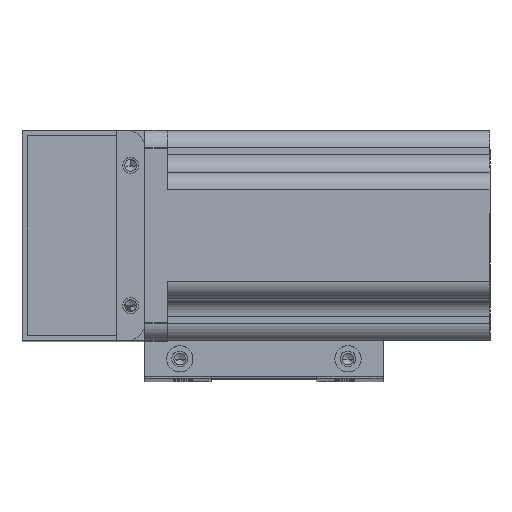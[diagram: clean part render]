
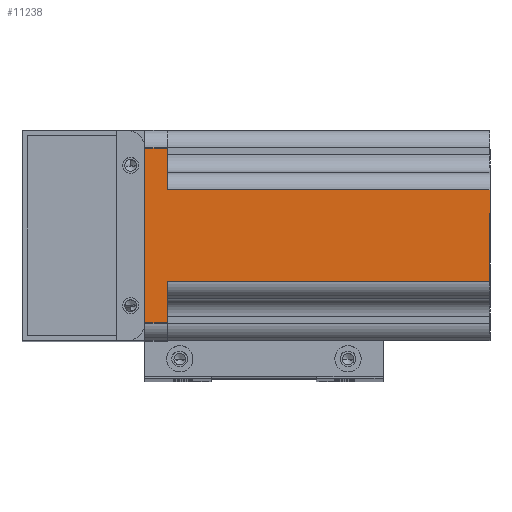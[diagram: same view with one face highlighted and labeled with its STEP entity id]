
A CAD part, top view. The second image highlights one B-rep face of the part: STEP entity #11238.
In plain terms, the highlighted planar face has unit normal (0, 0, 1) as drawn and (-1, 0, 0) by its records, which use the part's own axes.
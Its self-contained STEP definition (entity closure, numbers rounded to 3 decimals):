
#423 = CARTESIAN_POINT ( 'NONE',  ( -30., -13., 0. ) ) ;
#532 = VERTEX_POINT ( 'NONE', #6875 ) ;
#1039 = CARTESIAN_POINT ( 'NONE',  ( -30., 13., 6.5 ) ) ;
#1272 = EDGE_CURVE ( 'NONE', #3406, #532, #12506, .T. ) ;
#1796 = LINE ( 'NONE', #17057, #22932 ) ;
#2133 = EDGE_CURVE ( 'NONE', #9688, #6325, #1796, .T. ) ;
#2166 = CARTESIAN_POINT ( 'NONE',  ( -30., -25., 6.5 ) ) ;
#3059 = DIRECTION ( 'NONE',  ( 0., 0., -1. ) ) ;
#3406 = VERTEX_POINT ( 'NONE', #11632 ) ;
#3554 = VERTEX_POINT ( 'NONE', #22383 ) ;
#4262 = DIRECTION ( 'NONE',  ( 0., 0., -1. ) ) ;
#4529 = DIRECTION ( 'NONE',  ( 0., 0., -1. ) ) ;
#4616 = DIRECTION ( 'NONE',  ( 0., -1., 0. ) ) ;
#4618 = EDGE_LOOP ( 'NONE', ( #7313, #9776, #19137, #10570, #26868, #23811, #25053, #21264 ) ) ;
#5034 = FACE_OUTER_BOUND ( 'NONE', #4618, .T. ) ;
#5453 = CARTESIAN_POINT ( 'NONE',  ( -30., -18., -92. ) ) ;
#6118 = VERTEX_POINT ( 'NONE', #20895 ) ;
#6170 = LINE ( 'NONE', #17122, #23722 ) ;
#6325 = VERTEX_POINT ( 'NONE', #23640 ) ;
#6875 = CARTESIAN_POINT ( 'NONE',  ( -30., 13., 0. ) ) ;
#7313 = ORIENTED_EDGE ( 'NONE', *, *, #22178, .F. ) ;
#7346 = LINE ( 'NONE', #25216, #12312 ) ;
#8455 = DIRECTION ( 'NONE',  ( 0., 0., 1. ) ) ;
#9688 = VERTEX_POINT ( 'NONE', #18892 ) ;
#9776 = ORIENTED_EDGE ( 'NONE', *, *, #22065, .T. ) ;
#9884 = EDGE_CURVE ( 'NONE', #6325, #11360, #6170, .T. ) ;
#10570 = ORIENTED_EDGE ( 'NONE', *, *, #9884, .F. ) ;
#10850 = VECTOR ( 'NONE', #20366, 1000. ) ;
#11238 = ADVANCED_FACE ( 'NONE', ( #5034 ), #21153, .F. ) ;
#11360 = VERTEX_POINT ( 'NONE', #17065 ) ;
#11632 = CARTESIAN_POINT ( 'NONE',  ( -30., 25., 0. ) ) ;
#12312 = VECTOR ( 'NONE', #8455, 1000. ) ;
#12506 = LINE ( 'NONE', #22576, #10850 ) ;
#12977 = LINE ( 'NONE', #15124, #20929 ) ;
#14259 = AXIS2_PLACEMENT_3D ( 'NONE', #2166, #25675, #4262 ) ;
#15112 = VECTOR ( 'NONE', #3059, 1000. ) ;
#15124 = CARTESIAN_POINT ( 'NONE',  ( -30., -25., 0. ) ) ;
#15766 = EDGE_CURVE ( 'NONE', #20953, #11360, #12977, .T. ) ;
#16883 = DIRECTION ( 'NONE',  ( 0., -1., 0. ) ) ;
#17057 = CARTESIAN_POINT ( 'NONE',  ( -30., -25., 6.5 ) ) ;
#17065 = CARTESIAN_POINT ( 'NONE',  ( -30., -25., 0. ) ) ;
#17122 = CARTESIAN_POINT ( 'NONE',  ( -30., -25., 6.5 ) ) ;
#17870 = DIRECTION ( 'NONE',  ( 0., 1., 0. ) ) ;
#18892 = CARTESIAN_POINT ( 'NONE',  ( -30., 25., 6.5 ) ) ;
#19137 = ORIENTED_EDGE ( 'NONE', *, *, #15766, .T. ) ;
#20366 = DIRECTION ( 'NONE',  ( 0., -1., 0. ) ) ;
#20540 = VECTOR ( 'NONE', #25634, 1000. ) ;
#20895 = CARTESIAN_POINT ( 'NONE',  ( -30., -13., -92. ) ) ;
#20929 = VECTOR ( 'NONE', #16883, 1000. ) ;
#20953 = VERTEX_POINT ( 'NONE', #423 ) ;
#21153 = PLANE ( 'NONE',  #14259 ) ;
#21264 = ORIENTED_EDGE ( 'NONE', *, *, #24887, .T. ) ;
#21265 = VECTOR ( 'NONE', #17870, 1000. ) ;
#22065 = EDGE_CURVE ( 'NONE', #6118, #20953, #7346, .T. ) ;
#22178 = EDGE_CURVE ( 'NONE', #6118, #3554, #23894, .T. ) ;
#22383 = CARTESIAN_POINT ( 'NONE',  ( -30., 13., -92. ) ) ;
#22576 = CARTESIAN_POINT ( 'NONE',  ( -30., -25., 0. ) ) ;
#22932 = VECTOR ( 'NONE', #4616, 1000. ) ;
#23427 = CARTESIAN_POINT ( 'NONE',  ( -30., 25., 6.5 ) ) ;
#23640 = CARTESIAN_POINT ( 'NONE',  ( -30., -25., 6.5 ) ) ;
#23722 = VECTOR ( 'NONE', #4529, 1000. ) ;
#23811 = ORIENTED_EDGE ( 'NONE', *, *, #26552, .T. ) ;
#23894 = LINE ( 'NONE', #5453, #21265 ) ;
#24396 = LINE ( 'NONE', #1039, #15112 ) ;
#24887 = EDGE_CURVE ( 'NONE', #532, #3554, #24396, .T. ) ;
#25053 = ORIENTED_EDGE ( 'NONE', *, *, #1272, .T. ) ;
#25216 = CARTESIAN_POINT ( 'NONE',  ( -30., -13., 6.5 ) ) ;
#25634 = DIRECTION ( 'NONE',  ( 0., 0., -1. ) ) ;
#25675 = DIRECTION ( 'NONE',  ( 1., 0., 0. ) ) ;
#26140 = LINE ( 'NONE', #23427, #20540 ) ;
#26552 = EDGE_CURVE ( 'NONE', #9688, #3406, #26140, .T. ) ;
#26868 = ORIENTED_EDGE ( 'NONE', *, *, #2133, .F. ) ;
